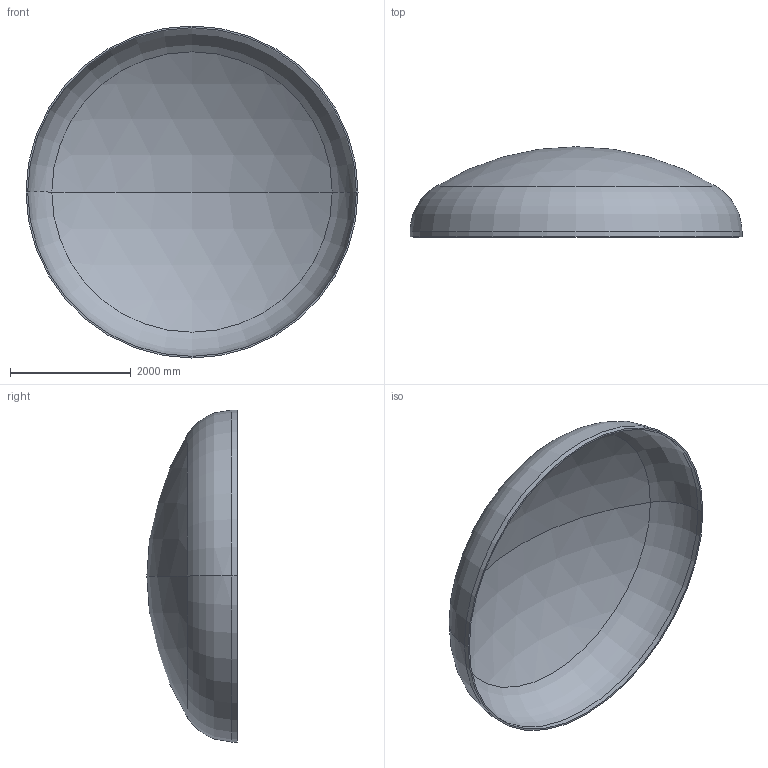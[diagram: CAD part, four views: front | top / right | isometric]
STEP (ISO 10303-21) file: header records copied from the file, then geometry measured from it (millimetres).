
FILE_DESCRIPTION (( 'STEP AP203' ), '1' );
FILE_NAME ('DIN 28013 Korbbogenform_-_Boden DIN 28013 - 5500 x 85 - I - s=28.step', '2016-07-04T10:33:50', ( '' ), ( '' ), 'SwSTEP 2.0', 'SolidWorks 2013', '' );
FILE_SCHEMA (( 'CONFIG_CONTROL_DESIGN' ));
Length unit declared in the file: millimetre
Products named in the file (1): DIN 28013 Korbbogenform_-_Boden DIN 28013 - 5500 x 85 - I - s=28
Bounding box: 5500 x 1493.91 x 5500 mm (x, y, z)
Volume: 955681185.9 mm3; surface area: 68745899.1 mm2
Topology: 1 solids, 1 shells, 13 faces, 24 edges, 14 vertices
Faces by surface type: torus 4, cylinder 4, sphere 4, plane 1
Entity records: 407 total; most frequent: DIRECTION 72, CARTESIAN_POINT 52, ORIENTED_EDGE 48, AXIS2_PLACEMENT_3D 34, EDGE_CURVE 24, CIRCLE 20, VERTEX_POINT 14, EDGE_LOOP 14
